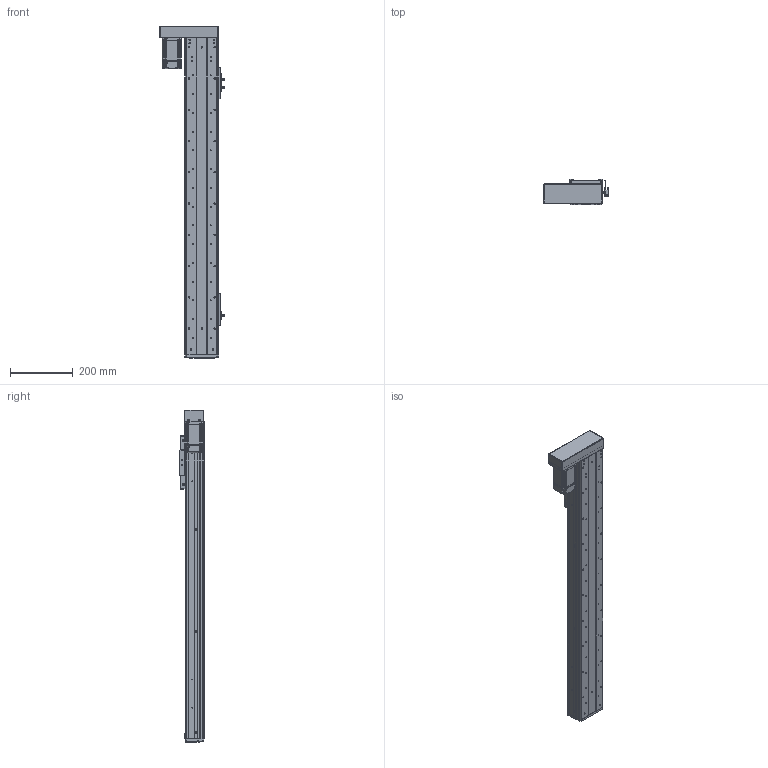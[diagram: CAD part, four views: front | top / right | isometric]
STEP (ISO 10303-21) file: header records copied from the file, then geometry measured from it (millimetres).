
FILE_DESCRIPTION (( 'STEP AP203' ), '1' );
FILE_NAME ('RY100FS-L1620-300-LK(15双轨).SLDASM_750.step', '2021-03-02T07:40:31', ( '盈信电脑' ), ( '东莞市道滘镇水果街19号' ), 'SwSTEP 2.0', 'SolidWorks 2012', '' );
FILE_SCHEMA (( 'CONFIG_CONTROL_DESIGN' ));
Length unit declared in the file: millimetre
Products named in the file (21): RY100FS-L1620-300-LK(15邧寢).SLDASM_750; 蚥薯蝶紫輸; 1; 滅袉蝶14-35; RY100FS-15邧寢蛌殏萇儂欶; RY100FS-15邧寢蛌殏萇儂啣; RY100F-詩湍揤踡輸; RY100FS-15邧寢蛌殏萇儂釱; RY100FS-双轨螺母座(16丝杆）; 覜茼ん672; RY80俋离覜茼え; 672嫖萇羲壽假蚾釱; RY100F-綴裔啣; 棠沺沭; RY100F-詩湍揤踡謫; RY100F-詩湍幗謫粣; RY100F-滅鳥裔啣; RY100FS-300-LK15邧寢祥凄詩湍_750; RY100FS-300-LK15絳寢倰第奻裔啣_750; RY100FS-300-LK15絳寢倰第菁釱_750; RY100FS-双轨铝滑块(上板）
Assembly tree (29 placements, depth 2):
  RY100FS-L1620-300-LK(15邧寢).SLDASM_750
    RY100FS-300-LK15絳寢倰第菁釱_750
    RY100FS-300-LK15絳寢倰第奻裔啣_750  x2
    RY100FS-300-LK15邧寢祥凄詩湍_750
    RY100FS-双轨铝滑块(上板）
    RY100F-滅鳥裔啣
    棠沺沭  x2
    RY100F-詩湍幗謫粣
    RY100F-詩湍揤踡謫  x2
    RY100F-綴裔啣
    672嫖萇羲壽假蚾釱  x2
    RY80俋离覜茼え  x2
    覜茼ん672  x3
    RY100F-詩湍揤踡輸  x2
    RY100FS-双轨螺母座(16丝杆）
    RY100FS-15邧寢蛌殏萇儂釱
    滅袉蝶14-35
    1
    RY100FS-15邧寢蛌殏萇儂啣
    RY100FS-15邧寢蛌殏萇儂欶
    蚥薯蝶紫輸  x2
Bounding box: 207.3 x 78.5 x 1062 mm (x, y, z)
Volume: 2548437.7 mm3; surface area: 1089027.1 mm2
Topology: 29 solids, 29 shells, 2265 faces, 6154 edges, 3973 vertices
Faces by surface type: cylinder 1035, plane 1029, cone 168, bspline 33
Entity records: 65135 total; most frequent: CARTESIAN_POINT 13808, DIRECTION 10229, ORIENTED_EDGE 10112, EDGE_CURVE 5056, AXIS2_PLACEMENT_3D 3622, VERTEX_POINT 3321, LINE 2985, VECTOR 2985
